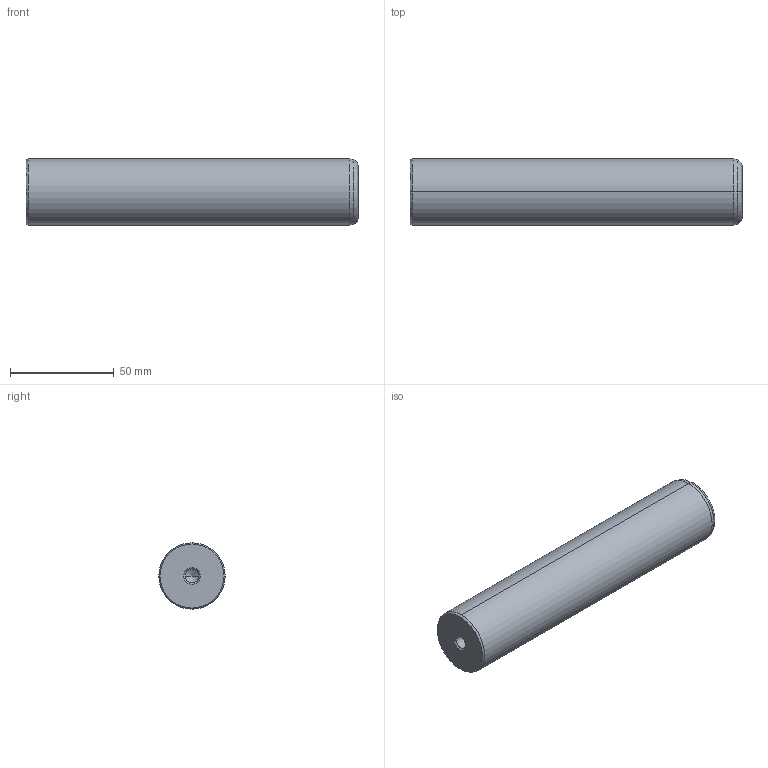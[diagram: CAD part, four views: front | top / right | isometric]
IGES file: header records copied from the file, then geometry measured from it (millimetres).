
Start section: START RECORD GO HERE.
Global section: file name: 720-32x160.igs; native system: DASSAULT SYSTEMES CATIA V5 R20 - www.3ds.com; preprocessor: CATIA Version 5 Release 20 ; author: Utente; organization: NB04-ASUS; date: 20210101.131932; units: millimetre
Bounding box: 160 x 32 x 32 mm (x, y, z)
Surface area: 18477.7 mm2 (no closed solid volume)
Topology: 0 solids, 0 shells, 22 faces, 108 edges, 104 vertices
Faces by surface type: revolution 20, plane 2
